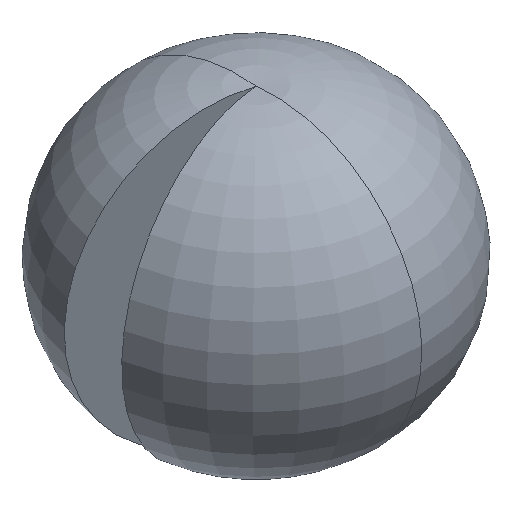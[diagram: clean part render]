
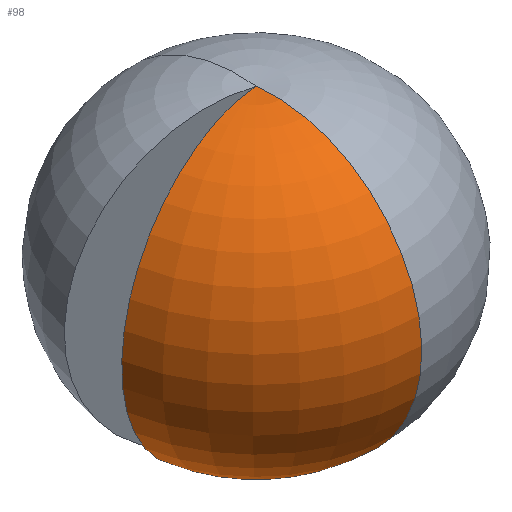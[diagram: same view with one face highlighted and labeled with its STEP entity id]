
A CAD part, isometric view. The second image highlights one B-rep face of the part: STEP entity #98.
In plain terms, the highlighted toroidal (fillet/blend) face has major radius 320.127 mm and minor radius 2680.37 mm.
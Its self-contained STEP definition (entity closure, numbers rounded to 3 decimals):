
#6 = AXIS2_PLACEMENT_3D ( 'NONE', #148, #15, #150 ) ;
#15 = DIRECTION ( 'NONE',  ( -1., 0., 0. ) ) ;
#36 = VERTEX_POINT ( 'NONE', #102 ) ;
#39 = DIRECTION ( 'NONE',  ( 0., -1., 0. ) ) ;
#76 = CARTESIAN_POINT ( 'NONE',  ( -1829.304, -322.556, -1525.631 ) ) ;
#88 = DIRECTION ( 'NONE',  ( -0.985, -0.174, 0. ) ) ;
#93 = VERTEX_POINT ( 'NONE', #76 ) ;
#98 = ADVANCED_FACE ( 'NONE', ( #116 ), #220, .T. ) ;
#102 = CARTESIAN_POINT ( 'NONE',  ( 0., -1857.524, -1525.631 ) ) ;
#109 = CARTESIAN_POINT ( 'NONE',  ( -315.264, -55.589, 670. ) ) ;
#116 = FACE_OUTER_BOUND ( 'NONE', #287, .T. ) ;
#117 = CARTESIAN_POINT ( 'NONE',  ( 0., 0., 3331.185 ) ) ;
#118 = ORIENTED_EDGE ( 'NONE', *, *, #219, .F. ) ;
#131 = CIRCLE ( 'NONE', #335, 2680.371 ) ;
#148 = CARTESIAN_POINT ( 'NONE',  ( 0., -320.127, 670. ) ) ;
#150 = DIRECTION ( 'NONE',  ( 0., -1., 0. ) ) ;
#157 = ORIENTED_EDGE ( 'NONE', *, *, #293, .T. ) ;
#202 = VERTEX_POINT ( 'NONE', #117 ) ;
#204 = CIRCLE ( 'NONE', #6, 2680.371 ) ;
#215 = ORIENTED_EDGE ( 'NONE', *, *, #279, .T. ) ;
#219 = EDGE_CURVE ( 'NONE', #93, #202, #131, .T. ) ;
#220 = TOROIDAL_SURFACE ( 'NONE', #289, 320.127, 2680.371 ) ;
#223 = DIRECTION ( 'NONE',  ( -0.174, 0.985, 0. ) ) ;
#230 = CARTESIAN_POINT ( 'NONE',  ( 0., 0., 670. ) ) ;
#240 = CARTESIAN_POINT ( 'NONE',  ( 0., 0., -1525.631 ) ) ;
#258 = DIRECTION ( 'NONE',  ( 0., 0., 1. ) ) ;
#279 = EDGE_CURVE ( 'NONE', #93, #36, #352, .T. ) ;
#287 = EDGE_LOOP ( 'NONE', ( #215, #157, #118 ) ) ;
#289 = AXIS2_PLACEMENT_3D ( 'NONE', #230, #258, #39 ) ;
#293 = EDGE_CURVE ( 'NONE', #36, #202, #204, .T. ) ;
#313 = AXIS2_PLACEMENT_3D ( 'NONE', #240, #317, #349 ) ;
#317 = DIRECTION ( 'NONE',  ( 0., 0., 1. ) ) ;
#335 = AXIS2_PLACEMENT_3D ( 'NONE', #109, #223, #88 ) ;
#349 = DIRECTION ( 'NONE',  ( 0., -1., 0. ) ) ;
#352 = CIRCLE ( 'NONE', #313, 1857.524 ) ;
